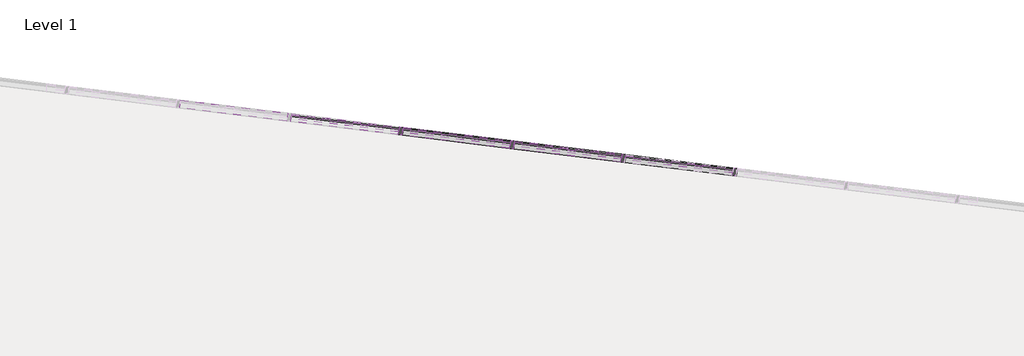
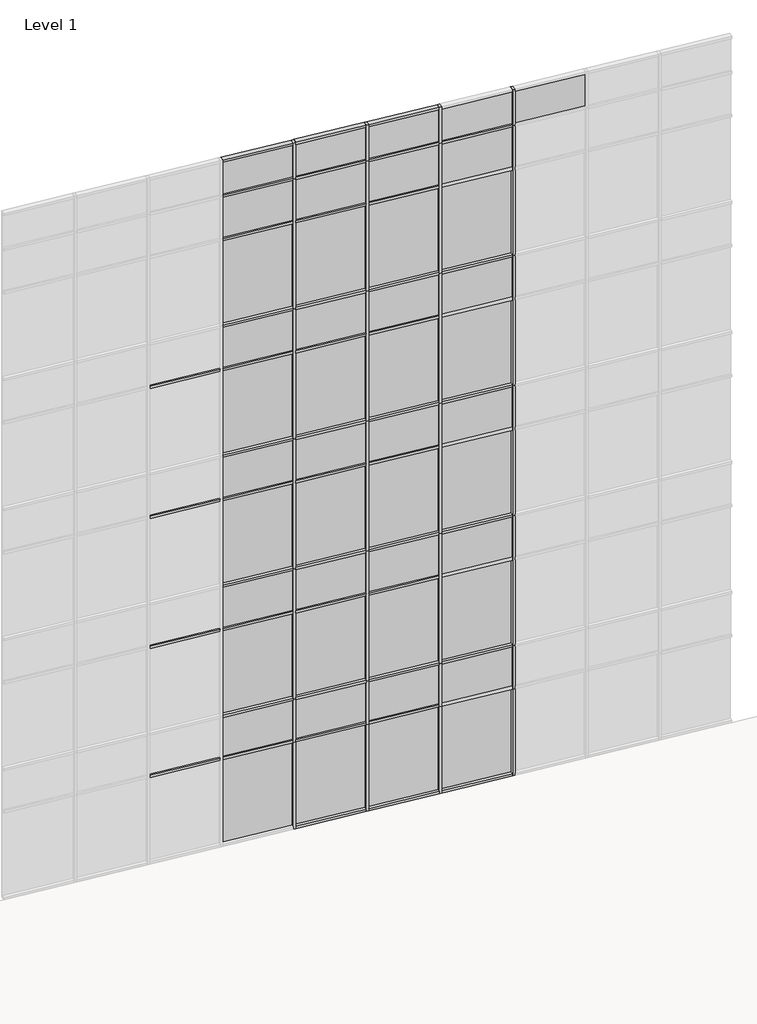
# One storey, part 17 of 23: 73 members, 45 plates.
"""IFC4 building model written with IfcOpenShell, lengths in millimetres."""

from ifc_helpers import new_model, si_unit, origin, place, context, project, spatial, transform, mapped, element, save
from components import member_2b49869a, member_f92b8aa2, member_810865a4, member_f0fea5a5, member_6d5c3e5e, member_9764dd38, system_panel_glazed_14c75400, system_panel_solid_5dfe6f83, system_panel_solid_e25e2004, system_panel_solid_b7551183

model = new_model("IFC4")

# Units and contexts
model_context = context("Model", 3, world=origin())
ifc_project = project(units=[si_unit("LENGTHUNIT", "METRE", prefix="MILLI")], contexts=[model_context])

# Site, building, storey
site = spatial("IfcSite", under=ifc_project)
building = spatial("IfcBuilding", under=site)
storey = spatial("IfcBuildingStorey", under=building, Name="Level 1", Elevation=0.0)

# Members
placement = place(None, origin())
member_shape = member_2b49869a(model_context)
element("IfcMember", 1, ObjectType="Rectangular Mullion : 2.5\" x 5\" rectangular", at=placement, inside=storey, context=model_context, shape_type="MappedRepresentation", body=[
    mapped(member_shape, transform((-12961.1731656, 13462.7931326, 2438.4), x_axis=(0.9925461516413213, -0.12186934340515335, 0.0), y_axis=(-0.12186934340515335, -0.9925461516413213, 0.0), z_axis=(0.0, 0.0, -1.0))),
])
element("IfcMember", 2, ObjectType="Rectangular Mullion : 2.5\" x 5\" rectangular", at=placement, inside=storey, context=model_context, shape_type="MappedRepresentation", body=[
    mapped(member_shape, transform((-14776.3415677, 13685.6677878, 2438.4), x_axis=(0.9925461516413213, -0.12186934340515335, 0.0), y_axis=(-0.12186934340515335, -0.9925461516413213, 0.0), z_axis=(0.0, 0.0, -1.0))),
])
element("IfcMember", 3, ObjectType="Rectangular Mullion : 2.5\" x 5\" rectangular", at=placement, inside=storey, context=model_context, shape_type="MappedRepresentation", body=[
    mapped(member_shape, transform((-16591.5099698, 13908.5424431, 2438.4), x_axis=(0.9925461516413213, -0.12186934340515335, 0.0), y_axis=(-0.12186934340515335, -0.9925461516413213, 0.0), z_axis=(0.0, 0.0, -1.0))),
])
element("IfcMember", 4, ObjectType="Rectangular Mullion : 2.5\" x 5\" rectangular", at=placement, inside=storey, context=model_context, shape_type="MappedRepresentation", body=[
    mapped(member_shape, transform((-18406.678372, 14131.4170983, 2438.4), x_axis=(0.9925461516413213, -0.12186934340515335, 0.0), y_axis=(-0.12186934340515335, -0.9925461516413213, 0.0), z_axis=(0.0, 0.0, -1.0))),
])
member_2_shape = member_f92b8aa2(model_context)
element("IfcMember", 5, ObjectType="Rectangular Mullion : 2.5\" x 5\" rectangular", at=placement, inside=storey, context=model_context, shape_type="MappedRepresentation", body=[
    mapped(member_2_shape, transform((-12961.1731656, 13462.7931326, 18288.0), x_axis=(0.9925461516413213, -0.12186934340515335, 0.0), y_axis=(-0.12186934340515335, -0.9925461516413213, 0.0), z_axis=(0.0, 0.0, -1.0))),
])
element("IfcMember", 6, ObjectType="Rectangular Mullion : 2.5\" x 5\" rectangular", at=placement, inside=storey, context=model_context, shape_type="MappedRepresentation", body=[
    mapped(member_2_shape, transform((-14776.3415677, 13685.6677878, 18288.0), x_axis=(0.9925461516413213, -0.12186934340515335, 0.0), y_axis=(-0.12186934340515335, -0.9925461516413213, 0.0), z_axis=(0.0, 0.0, -1.0))),
])
element("IfcMember", 7, ObjectType="Rectangular Mullion : 2.5\" x 5\" rectangular", at=placement, inside=storey, context=model_context, shape_type="MappedRepresentation", body=[
    mapped(member_2_shape, transform((-16591.5099698, 13908.5424431, 18288.0), x_axis=(0.9925461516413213, -0.12186934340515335, 0.0), y_axis=(-0.12186934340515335, -0.9925461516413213, 0.0), z_axis=(0.0, 0.0, -1.0))),
])
element("IfcMember", 8, ObjectType="Rectangular Mullion : 2.5\" x 5\" rectangular", at=placement, inside=storey, context=model_context, shape_type="MappedRepresentation", body=[
    mapped(member_2_shape, transform((-18406.678372, 14131.4170983, 18288.0), x_axis=(0.9925461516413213, -0.12186934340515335, 0.0), y_axis=(-0.12186934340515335, -0.9925461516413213, 0.0), z_axis=(0.0, 0.0, -1.0))),
])
member_3_shape = member_810865a4(model_context)
element("IfcMember", 9, ObjectType="Rectangular Mullion : 2.5\" x 5\" rectangular", at=placement, inside=storey, context=model_context, shape_type="MappedRepresentation", body=[
    mapped(member_3_shape, transform((-12961.1731656, 13462.7931326, 14630.4), x_axis=(0.9925461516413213, -0.12186934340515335, 0.0), y_axis=(-0.12186934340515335, -0.9925461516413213, 0.0), z_axis=(0.0, 0.0, -1.0))),
])
element("IfcMember", 10, ObjectType="Rectangular Mullion : 2.5\" x 5\" rectangular", at=placement, inside=storey, context=model_context, shape_type="MappedRepresentation", body=[
    mapped(member_3_shape, transform((-12961.1731656, 13462.7931326, 10972.8), x_axis=(0.9925461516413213, -0.12186934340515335, 0.0), y_axis=(-0.12186934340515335, -0.9925461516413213, 0.0), z_axis=(0.0, 0.0, -1.0))),
])
element("IfcMember", 11, ObjectType="Rectangular Mullion : 2.5\" x 5\" rectangular", at=placement, inside=storey, context=model_context, shape_type="MappedRepresentation", body=[
    mapped(member_3_shape, transform((-12961.1731656, 13462.7931326, 7315.2), x_axis=(0.9925461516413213, -0.12186934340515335, 0.0), y_axis=(-0.12186934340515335, -0.9925461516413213, 0.0), z_axis=(0.0, 0.0, -1.0))),
])
element("IfcMember", 12, ObjectType="Rectangular Mullion : 2.5\" x 5\" rectangular", at=placement, inside=storey, context=model_context, shape_type="MappedRepresentation", body=[
    mapped(member_3_shape, transform((-12961.1731656, 13462.7931326, 3657.6), x_axis=(0.9925461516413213, -0.12186934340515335, 0.0), y_axis=(-0.12186934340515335, -0.9925461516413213, 0.0), z_axis=(0.0, 0.0, -1.0))),
])
element("IfcMember", 13, ObjectType="Rectangular Mullion : 2.5\" x 5\" rectangular", at=placement, inside=storey, context=model_context, shape_type="MappedRepresentation", body=[
    mapped(member_3_shape, transform((-14776.3415677, 13685.6677878, 14630.4), x_axis=(0.9925461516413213, -0.12186934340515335, 0.0), y_axis=(-0.12186934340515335, -0.9925461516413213, 0.0), z_axis=(0.0, 0.0, -1.0))),
])
element("IfcMember", 14, ObjectType="Rectangular Mullion : 2.5\" x 5\" rectangular", at=placement, inside=storey, context=model_context, shape_type="MappedRepresentation", body=[
    mapped(member_3_shape, transform((-14776.3415677, 13685.6677878, 10972.8), x_axis=(0.9925461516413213, -0.12186934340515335, 0.0), y_axis=(-0.12186934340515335, -0.9925461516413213, 0.0), z_axis=(0.0, 0.0, -1.0))),
])
element("IfcMember", 15, ObjectType="Rectangular Mullion : 2.5\" x 5\" rectangular", at=placement, inside=storey, context=model_context, shape_type="MappedRepresentation", body=[
    mapped(member_3_shape, transform((-14776.3415677, 13685.6677878, 7315.2), x_axis=(0.9925461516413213, -0.12186934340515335, 0.0), y_axis=(-0.12186934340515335, -0.9925461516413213, 0.0), z_axis=(0.0, 0.0, -1.0))),
])
element("IfcMember", 16, ObjectType="Rectangular Mullion : 2.5\" x 5\" rectangular", at=placement, inside=storey, context=model_context, shape_type="MappedRepresentation", body=[
    mapped(member_3_shape, transform((-14776.3415677, 13685.6677878, 3657.6), x_axis=(0.9925461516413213, -0.12186934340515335, 0.0), y_axis=(-0.12186934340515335, -0.9925461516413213, 0.0), z_axis=(0.0, 0.0, -1.0))),
])
element("IfcMember", 17, ObjectType="Rectangular Mullion : 2.5\" x 5\" rectangular", at=placement, inside=storey, context=model_context, shape_type="MappedRepresentation", body=[
    mapped(member_3_shape, transform((-16591.5099698, 13908.5424431, 14630.4), x_axis=(0.9925461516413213, -0.12186934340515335, 0.0), y_axis=(-0.12186934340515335, -0.9925461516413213, 0.0), z_axis=(0.0, 0.0, -1.0))),
])
element("IfcMember", 18, ObjectType="Rectangular Mullion : 2.5\" x 5\" rectangular", at=placement, inside=storey, context=model_context, shape_type="MappedRepresentation", body=[
    mapped(member_3_shape, transform((-16591.5099698, 13908.5424431, 10972.8), x_axis=(0.9925461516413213, -0.12186934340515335, 0.0), y_axis=(-0.12186934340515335, -0.9925461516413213, 0.0), z_axis=(0.0, 0.0, -1.0))),
])
element("IfcMember", 19, ObjectType="Rectangular Mullion : 2.5\" x 5\" rectangular", at=placement, inside=storey, context=model_context, shape_type="MappedRepresentation", body=[
    mapped(member_3_shape, transform((-16591.5099698, 13908.5424431, 7315.2), x_axis=(0.9925461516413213, -0.12186934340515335, 0.0), y_axis=(-0.12186934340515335, -0.9925461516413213, 0.0), z_axis=(0.0, 0.0, -1.0))),
])
element("IfcMember", 20, ObjectType="Rectangular Mullion : 2.5\" x 5\" rectangular", at=placement, inside=storey, context=model_context, shape_type="MappedRepresentation", body=[
    mapped(member_3_shape, transform((-16591.5099698, 13908.5424431, 3657.6), x_axis=(0.9925461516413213, -0.12186934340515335, 0.0), y_axis=(-0.12186934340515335, -0.9925461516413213, 0.0), z_axis=(0.0, 0.0, -1.0))),
])
element("IfcMember", 21, ObjectType="Rectangular Mullion : 2.5\" x 5\" rectangular", at=placement, inside=storey, context=model_context, shape_type="MappedRepresentation", body=[
    mapped(member_3_shape, transform((-18406.678372, 14131.4170983, 14630.4), x_axis=(0.9925461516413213, -0.12186934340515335, 0.0), y_axis=(-0.12186934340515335, -0.9925461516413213, 0.0), z_axis=(0.0, 0.0, -1.0))),
])
element("IfcMember", 22, ObjectType="Rectangular Mullion : 2.5\" x 5\" rectangular", at=placement, inside=storey, context=model_context, shape_type="MappedRepresentation", body=[
    mapped(member_3_shape, transform((-18406.678372, 14131.4170983, 10972.8), x_axis=(0.9925461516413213, -0.12186934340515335, 0.0), y_axis=(-0.12186934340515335, -0.9925461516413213, 0.0), z_axis=(0.0, 0.0, -1.0))),
])
element("IfcMember", 23, ObjectType="Rectangular Mullion : 2.5\" x 5\" rectangular", at=placement, inside=storey, context=model_context, shape_type="MappedRepresentation", body=[
    mapped(member_3_shape, transform((-18406.678372, 14131.4170983, 7315.2), x_axis=(0.9925461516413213, -0.12186934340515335, 0.0), y_axis=(-0.12186934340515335, -0.9925461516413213, 0.0), z_axis=(0.0, 0.0, -1.0))),
])
element("IfcMember", 24, ObjectType="Rectangular Mullion : 2.5\" x 5\" rectangular", at=placement, inside=storey, context=model_context, shape_type="MappedRepresentation", body=[
    mapped(member_3_shape, transform((-18406.678372, 14131.4170983, 3657.6), x_axis=(0.9925461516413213, -0.12186934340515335, 0.0), y_axis=(-0.12186934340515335, -0.9925461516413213, 0.0), z_axis=(0.0, 0.0, -1.0))),
])
member_4_shape = member_f0fea5a5(model_context)
element("IfcMember", 25, ObjectType="Rectangular Mullion : 2.5\" x 5\" rectangular", at=placement, inside=storey, context=model_context, shape_type="MappedRepresentation", body=[
    mapped(member_4_shape, transform((-18406.678372, 14131.4170983, 0.0), x_axis=(0.9925461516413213, -0.12186934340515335, 0.0), y_axis=(-0.12186934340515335, -0.9925461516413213, 0.0), z_axis=(0.0, 0.0, -1.0))),
])
element("IfcMember", 26, ObjectType="Rectangular Mullion : 2.5\" x 5\" rectangular", at=placement, inside=storey, context=model_context, shape_type="MappedRepresentation", body=[
    mapped(member_4_shape, transform((-16591.5099698, 13908.5424431, 0.0), x_axis=(0.9925461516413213, -0.12186934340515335, 0.0), y_axis=(-0.12186934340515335, -0.9925461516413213, 0.0), z_axis=(0.0, 0.0, -1.0))),
])
element("IfcMember", 27, ObjectType="Rectangular Mullion : 2.5\" x 5\" rectangular", at=placement, inside=storey, context=model_context, shape_type="MappedRepresentation", body=[
    mapped(member_4_shape, transform((-14776.3415677, 13685.6677878, 0.0), x_axis=(0.9925461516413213, -0.12186934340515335, 0.0), y_axis=(-0.12186934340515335, -0.9925461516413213, 0.0), z_axis=(0.0, 0.0, -1.0))),
])
element("IfcMember", 28, ObjectType="Rectangular Mullion : 2.5\" x 5\" rectangular", at=placement, inside=storey, context=model_context, shape_type="MappedRepresentation", body=[
    mapped(member_4_shape, transform((-12961.1731656, 13462.7931326, 0.0), x_axis=(0.9925461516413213, -0.12186934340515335, 0.0), y_axis=(-0.12186934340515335, -0.9925461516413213, 0.0), z_axis=(0.0, 0.0, -1.0))),
])
member_5_shape = member_6d5c3e5e(model_context)
element("IfcMember", 29, ObjectType="Rectangular Mullion : 2.5\" x 5\" rectangular", at=placement, inside=storey, context=model_context, shape_type="MappedRepresentation", body=[
    mapped(member_5_shape, transform((-14807.854908, 13689.5371395, 19304.0), x_axis=(0.0, 0.0, 1.0), y_axis=(-0.12186934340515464, -0.9925461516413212, 0.0), z_axis=(0.9925461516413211, -0.12186934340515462, 0.0))),
])
element("IfcMember", 30, ObjectType="Rectangular Mullion : 2.5\" x 5\" rectangular", at=placement, inside=storey, context=model_context, shape_type="MappedRepresentation", body=[
    mapped(member_5_shape, transform((-16623.0233102, 13912.4117947, 19304.0), x_axis=(0.0, 0.0, 1.0), y_axis=(-0.12186934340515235, -0.9925461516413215, 0.0), z_axis=(0.9925461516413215, -0.12186934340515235, 0.0))),
])
element("IfcMember", 31, ObjectType="Rectangular Mullion : 2.5\" x 5\" rectangular", at=placement, inside=storey, context=model_context, shape_type="MappedRepresentation", body=[
    mapped(member_5_shape, transform((-18438.1917123, 14135.2864499, 19304.0), x_axis=(0.0, 0.0, 1.0), y_axis=(-0.12186934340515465, -0.9925461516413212, 0.0), z_axis=(0.9925461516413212, -0.12186934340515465, 0.0))),
])
member_6_shape = member_9764dd38(model_context)
element("IfcMember", 32, ObjectType="Rectangular Mullion : 2.5\" x 5\" rectangular", at=placement, inside=storey, context=model_context, shape_type="MappedRepresentation", body=[
    mapped(member_6_shape, transform((-14807.854908, 13689.5371395, 17068.8), x_axis=(0.0, 0.0, 1.0), y_axis=(-0.12186934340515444, -0.9925461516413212, 0.0), z_axis=(0.9925461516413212, -0.12186934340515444, 0.0))),
])
element("IfcMember", 33, ObjectType="Rectangular Mullion : 2.5\" x 5\" rectangular", at=placement, inside=storey, context=model_context, shape_type="MappedRepresentation", body=[
    mapped(member_6_shape, transform((-16623.0233102, 13912.4117947, 17068.8), x_axis=(0.0, 0.0, 1.0), y_axis=(-0.12186934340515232, -0.9925461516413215, 0.0), z_axis=(0.9925461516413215, -0.12186934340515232, 0.0))),
])
element("IfcMember", 34, ObjectType="Rectangular Mullion : 2.5\" x 5\" rectangular", at=placement, inside=storey, context=model_context, shape_type="MappedRepresentation", body=[
    mapped(member_6_shape, transform((-18438.1917123, 14135.2864499, 17068.8), x_axis=(0.0, 0.0, 1.0), y_axis=(-0.12186934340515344, -0.9925461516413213, 0.0), z_axis=(0.9925461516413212, -0.12186934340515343, 0.0))),
])
element("IfcMember", 35, ObjectType="Rectangular Mullion : 2.5\" x 5\" rectangular", at=placement, inside=storey, context=model_context, shape_type="MappedRepresentation", body=[
    mapped(member_6_shape, transform((-14807.854908, 13689.5371395, 13411.2), x_axis=(0.0, 0.0, 1.0), y_axis=(-0.12186934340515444, -0.9925461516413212, 0.0), z_axis=(0.9925461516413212, -0.12186934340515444, 0.0))),
])
element("IfcMember", 36, ObjectType="Rectangular Mullion : 2.5\" x 5\" rectangular", at=placement, inside=storey, context=model_context, shape_type="MappedRepresentation", body=[
    mapped(member_6_shape, transform((-16623.0233102, 13912.4117947, 13411.2), x_axis=(0.0, 0.0, 1.0), y_axis=(-0.12186934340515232, -0.9925461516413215, 0.0), z_axis=(0.9925461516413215, -0.12186934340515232, 0.0))),
])
element("IfcMember", 37, ObjectType="Rectangular Mullion : 2.5\" x 5\" rectangular", at=placement, inside=storey, context=model_context, shape_type="MappedRepresentation", body=[
    mapped(member_6_shape, transform((-18438.1917123, 14135.2864499, 13411.2), x_axis=(0.0, 0.0, 1.0), y_axis=(-0.12186934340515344, -0.9925461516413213, 0.0), z_axis=(0.9925461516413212, -0.12186934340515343, 0.0))),
])
element("IfcMember", 38, ObjectType="Rectangular Mullion : 2.5\" x 5\" rectangular", at=placement, inside=storey, context=model_context, shape_type="MappedRepresentation", body=[
    mapped(member_6_shape, transform((-20253.3601144, 14358.1611052, 13411.2), x_axis=(0.0, 0.0, 1.0), y_axis=(-0.12186934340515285, -0.9925461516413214, 0.0), z_axis=(0.9925461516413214, -0.12186934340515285, 0.0))),
])
element("IfcMember", 39, ObjectType="Rectangular Mullion : 2.5\" x 5\" rectangular", at=placement, inside=storey, context=model_context, shape_type="MappedRepresentation", body=[
    mapped(member_6_shape, transform((-14807.854908, 13689.5371395, 9753.6), x_axis=(0.0, 0.0, 1.0), y_axis=(-0.12186934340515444, -0.9925461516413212, 0.0), z_axis=(0.9925461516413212, -0.12186934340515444, 0.0))),
])
element("IfcMember", 40, ObjectType="Rectangular Mullion : 2.5\" x 5\" rectangular", at=placement, inside=storey, context=model_context, shape_type="MappedRepresentation", body=[
    mapped(member_6_shape, transform((-16623.0233102, 13912.4117947, 9753.6), x_axis=(0.0, 0.0, 1.0), y_axis=(-0.12186934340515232, -0.9925461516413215, 0.0), z_axis=(0.9925461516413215, -0.12186934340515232, 0.0))),
])
element("IfcMember", 41, ObjectType="Rectangular Mullion : 2.5\" x 5\" rectangular", at=placement, inside=storey, context=model_context, shape_type="MappedRepresentation", body=[
    mapped(member_6_shape, transform((-18438.1917123, 14135.2864499, 9753.6), x_axis=(0.0, 0.0, 1.0), y_axis=(-0.12186934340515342, -0.9925461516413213, 0.0), z_axis=(0.9925461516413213, -0.12186934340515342, 0.0))),
])
element("IfcMember", 42, ObjectType="Rectangular Mullion : 2.5\" x 5\" rectangular", at=placement, inside=storey, context=model_context, shape_type="MappedRepresentation", body=[
    mapped(member_6_shape, transform((-20253.3601144, 14358.1611052, 9753.6), x_axis=(0.0, 0.0, 1.0), y_axis=(-0.12186934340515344, -0.9925461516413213, 0.0), z_axis=(0.9925461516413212, -0.12186934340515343, 0.0))),
])
element("IfcMember", 43, ObjectType="Rectangular Mullion : 2.5\" x 5\" rectangular", at=placement, inside=storey, context=model_context, shape_type="MappedRepresentation", body=[
    mapped(member_6_shape, transform((-14807.854908, 13689.5371395, 6096.0), x_axis=(0.0, 0.0, 1.0), y_axis=(-0.12186934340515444, -0.9925461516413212, 0.0), z_axis=(0.9925461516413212, -0.12186934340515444, 0.0))),
])
element("IfcMember", 44, ObjectType="Rectangular Mullion : 2.5\" x 5\" rectangular", at=placement, inside=storey, context=model_context, shape_type="MappedRepresentation", body=[
    mapped(member_6_shape, transform((-16623.0233102, 13912.4117947, 6096.0), x_axis=(0.0, 0.0, 1.0), y_axis=(-0.12186934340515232, -0.9925461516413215, 0.0), z_axis=(0.9925461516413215, -0.12186934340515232, 0.0))),
])
element("IfcMember", 45, ObjectType="Rectangular Mullion : 2.5\" x 5\" rectangular", at=placement, inside=storey, context=model_context, shape_type="MappedRepresentation", body=[
    mapped(member_6_shape, transform((-18438.1917123, 14135.2864499, 6096.0), x_axis=(0.0, 0.0, 1.0), y_axis=(-0.12186934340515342, -0.9925461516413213, 0.0), z_axis=(0.9925461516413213, -0.12186934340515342, 0.0))),
])
element("IfcMember", 46, ObjectType="Rectangular Mullion : 2.5\" x 5\" rectangular", at=placement, inside=storey, context=model_context, shape_type="MappedRepresentation", body=[
    mapped(member_6_shape, transform((-20253.3601144, 14358.1611052, 6096.0), x_axis=(0.0, 0.0, 1.0), y_axis=(-0.12186934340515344, -0.9925461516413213, 0.0), z_axis=(0.9925461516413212, -0.12186934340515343, 0.0))),
])
element("IfcMember", 47, ObjectType="Rectangular Mullion : 2.5\" x 5\" rectangular", at=placement, inside=storey, context=model_context, shape_type="MappedRepresentation", body=[
    mapped(member_6_shape, transform((-14807.854908, 13689.5371395, 2470.15), x_axis=(0.0, 0.0, 1.0), y_axis=(-0.12186934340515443, -0.9925461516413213, 0.0), z_axis=(0.9925461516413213, -0.12186934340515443, 0.0))),
])
element("IfcMember", 48, ObjectType="Rectangular Mullion : 2.5\" x 5\" rectangular", at=placement, inside=storey, context=model_context, shape_type="MappedRepresentation", body=[
    mapped(member_6_shape, transform((-16623.0233102, 13912.4117947, 2470.15), x_axis=(0.0, 0.0, 1.0), y_axis=(-0.12186934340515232, -0.9925461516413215, 0.0), z_axis=(0.9925461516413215, -0.12186934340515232, 0.0))),
])
element("IfcMember", 49, ObjectType="Rectangular Mullion : 2.5\" x 5\" rectangular", at=placement, inside=storey, context=model_context, shape_type="MappedRepresentation", body=[
    mapped(member_6_shape, transform((-18438.1917123, 14135.2864499, 2470.15), x_axis=(0.0, 0.0, 1.0), y_axis=(-0.1218693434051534, -0.9925461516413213, 0.0), z_axis=(0.9925461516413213, -0.1218693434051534, 0.0))),
])
element("IfcMember", 50, ObjectType="Rectangular Mullion : 2.5\" x 5\" rectangular", at=placement, inside=storey, context=model_context, shape_type="MappedRepresentation", body=[
    mapped(member_6_shape, transform((-20253.3601144, 14358.1611052, 2470.15), x_axis=(0.0, 0.0, 1.0), y_axis=(-0.12186934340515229, -0.9925461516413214, 0.0), z_axis=(0.9925461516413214, -0.12186934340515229, 0.0))),
])
element("IfcMember", 51, ObjectType="Rectangular Mullion : 2.5\" x 5\" rectangular", at=placement, inside=storey, context=model_context, shape_type="MappedRepresentation", body=[
    mapped(member_5_shape, transform((-14744.8282274, 13681.7984362, 0.0), x_axis=(0.0, 0.0, -1.0), y_axis=(-0.12186934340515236, -0.9925461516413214, 0.0), z_axis=(-0.9925461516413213, 0.12186934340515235, 0.0))),
])
element("IfcMember", 52, ObjectType="Rectangular Mullion : 2.5\" x 5\" rectangular", at=placement, inside=storey, context=model_context, shape_type="MappedRepresentation", body=[
    mapped(member_5_shape, transform((-16559.9966295, 13904.6730914, 0.0), x_axis=(0.0, 0.0, -1.0), y_axis=(-0.12186934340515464, -0.9925461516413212, 0.0), z_axis=(-0.9925461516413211, 0.12186934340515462, 0.0))),
])
element("IfcMember", 53, ObjectType="Rectangular Mullion : 2.5\" x 5\" rectangular", at=placement, inside=storey, context=model_context, shape_type="MappedRepresentation", body=[
    mapped(member_5_shape, transform((-18375.1650316, 14127.5477466, 0.0), x_axis=(0.0, 0.0, -1.0), y_axis=(-0.12186934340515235, -0.9925461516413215, 0.0), z_axis=(-0.9925461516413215, 0.12186934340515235, 0.0))),
])
element("IfcMember", 54, ObjectType="Rectangular Mullion : 2.5\" x 5\" rectangular", at=placement, inside=storey, context=model_context, shape_type="MappedRepresentation", body=[
    mapped(member_6_shape, transform((-12992.6865059, 13466.6624843, 3657.6), x_axis=(0.0, 0.0, 1.0), y_axis=(-0.12186934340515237, -0.9925461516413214, 0.0), z_axis=(0.9925461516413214, -0.12186934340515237, 0.0))),
])
element("IfcMember", 55, ObjectType="Rectangular Mullion : 2.5\" x 5\" rectangular", at=placement, inside=storey, context=model_context, shape_type="MappedRepresentation", body=[
    mapped(member_6_shape, transform((-14807.854908, 13689.5371395, 3657.6), x_axis=(0.0, 0.0, 1.0), y_axis=(-0.12186934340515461, -0.9925461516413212, 0.0), z_axis=(0.9925461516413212, -0.12186934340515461, 0.0))),
])
element("IfcMember", 56, ObjectType="Rectangular Mullion : 2.5\" x 5\" rectangular", at=placement, inside=storey, context=model_context, shape_type="MappedRepresentation", body=[
    mapped(member_6_shape, transform((-16623.0233102, 13912.4117947, 3657.6), x_axis=(0.0, 0.0, 1.0), y_axis=(-0.12186934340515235, -0.9925461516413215, 0.0), z_axis=(0.9925461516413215, -0.12186934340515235, 0.0))),
])
element("IfcMember", 57, ObjectType="Rectangular Mullion : 2.5\" x 5\" rectangular", at=placement, inside=storey, context=model_context, shape_type="MappedRepresentation", body=[
    mapped(member_6_shape, transform((-18438.1917123, 14135.2864499, 3657.6), x_axis=(0.0, 0.0, 1.0), y_axis=(-0.12186934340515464, -0.9925461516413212, 0.0), z_axis=(0.9925461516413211, -0.12186934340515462, 0.0))),
])
element("IfcMember", 58, ObjectType="Rectangular Mullion : 2.5\" x 5\" rectangular", at=placement, inside=storey, context=model_context, shape_type="MappedRepresentation", body=[
    mapped(member_6_shape, transform((-12992.6865059, 13466.6624843, 10972.8), x_axis=(0.0, 0.0, 1.0), y_axis=(-0.12186934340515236, -0.9925461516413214, 0.0), z_axis=(0.9925461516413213, -0.12186934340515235, 0.0))),
])
element("IfcMember", 59, ObjectType="Rectangular Mullion : 2.5\" x 5\" rectangular", at=placement, inside=storey, context=model_context, shape_type="MappedRepresentation", body=[
    mapped(member_6_shape, transform((-14807.854908, 13689.5371395, 10972.8), x_axis=(0.0, 0.0, 1.0), y_axis=(-0.12186934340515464, -0.9925461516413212, 0.0), z_axis=(0.9925461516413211, -0.12186934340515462, 0.0))),
])
element("IfcMember", 60, ObjectType="Rectangular Mullion : 2.5\" x 5\" rectangular", at=placement, inside=storey, context=model_context, shape_type="MappedRepresentation", body=[
    mapped(member_6_shape, transform((-16623.0233102, 13912.4117947, 10972.8), x_axis=(0.0, 0.0, 1.0), y_axis=(-0.12186934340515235, -0.9925461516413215, 0.0), z_axis=(0.9925461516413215, -0.12186934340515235, 0.0))),
])
element("IfcMember", 61, ObjectType="Rectangular Mullion : 2.5\" x 5\" rectangular", at=placement, inside=storey, context=model_context, shape_type="MappedRepresentation", body=[
    mapped(member_6_shape, transform((-18438.1917123, 14135.2864499, 10972.8), x_axis=(0.0, 0.0, 1.0), y_axis=(-0.12186934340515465, -0.9925461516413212, 0.0), z_axis=(0.9925461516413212, -0.12186934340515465, 0.0))),
])
element("IfcMember", 62, ObjectType="Rectangular Mullion : 2.5\" x 5\" rectangular", at=placement, inside=storey, context=model_context, shape_type="MappedRepresentation", body=[
    mapped(member_6_shape, transform((-12992.6865059, 13466.6624843, 14630.4), x_axis=(0.0, 0.0, 1.0), y_axis=(-0.12186934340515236, -0.9925461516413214, 0.0), z_axis=(0.9925461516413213, -0.12186934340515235, 0.0))),
])
element("IfcMember", 63, ObjectType="Rectangular Mullion : 2.5\" x 5\" rectangular", at=placement, inside=storey, context=model_context, shape_type="MappedRepresentation", body=[
    mapped(member_6_shape, transform((-14807.854908, 13689.5371395, 14630.4), x_axis=(0.0, 0.0, 1.0), y_axis=(-0.12186934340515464, -0.9925461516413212, 0.0), z_axis=(0.9925461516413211, -0.12186934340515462, 0.0))),
])
element("IfcMember", 64, ObjectType="Rectangular Mullion : 2.5\" x 5\" rectangular", at=placement, inside=storey, context=model_context, shape_type="MappedRepresentation", body=[
    mapped(member_6_shape, transform((-16623.0233102, 13912.4117947, 14630.4), x_axis=(0.0, 0.0, 1.0), y_axis=(-0.12186934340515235, -0.9925461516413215, 0.0), z_axis=(0.9925461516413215, -0.12186934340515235, 0.0))),
])
element("IfcMember", 65, ObjectType="Rectangular Mullion : 2.5\" x 5\" rectangular", at=placement, inside=storey, context=model_context, shape_type="MappedRepresentation", body=[
    mapped(member_6_shape, transform((-18438.1917123, 14135.2864499, 14630.4), x_axis=(0.0, 0.0, 1.0), y_axis=(-0.12186934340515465, -0.9925461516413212, 0.0), z_axis=(0.9925461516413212, -0.12186934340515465, 0.0))),
])
element("IfcMember", 66, ObjectType="Rectangular Mullion : 2.5\" x 5\" rectangular", at=placement, inside=storey, context=model_context, shape_type="MappedRepresentation", body=[
    mapped(member_6_shape, transform((-12992.6865059, 13466.6624843, 7315.2), x_axis=(0.0, 0.0, 1.0), y_axis=(-0.12186934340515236, -0.9925461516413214, 0.0), z_axis=(0.9925461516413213, -0.12186934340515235, 0.0))),
])
element("IfcMember", 67, ObjectType="Rectangular Mullion : 2.5\" x 5\" rectangular", at=placement, inside=storey, context=model_context, shape_type="MappedRepresentation", body=[
    mapped(member_6_shape, transform((-14807.854908, 13689.5371395, 7315.2), x_axis=(0.0, 0.0, 1.0), y_axis=(-0.12186934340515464, -0.9925461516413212, 0.0), z_axis=(0.9925461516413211, -0.12186934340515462, 0.0))),
])
element("IfcMember", 68, ObjectType="Rectangular Mullion : 2.5\" x 5\" rectangular", at=placement, inside=storey, context=model_context, shape_type="MappedRepresentation", body=[
    mapped(member_6_shape, transform((-16623.0233102, 13912.4117947, 7315.2), x_axis=(0.0, 0.0, 1.0), y_axis=(-0.12186934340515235, -0.9925461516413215, 0.0), z_axis=(0.9925461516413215, -0.12186934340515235, 0.0))),
])
element("IfcMember", 69, ObjectType="Rectangular Mullion : 2.5\" x 5\" rectangular", at=placement, inside=storey, context=model_context, shape_type="MappedRepresentation", body=[
    mapped(member_6_shape, transform((-18438.1917123, 14135.2864499, 7315.2), x_axis=(0.0, 0.0, 1.0), y_axis=(-0.12186934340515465, -0.9925461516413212, 0.0), z_axis=(0.9925461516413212, -0.12186934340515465, 0.0))),
])
element("IfcMember", 70, ObjectType="Rectangular Mullion : 2.5\" x 5\" rectangular", at=placement, inside=storey, context=model_context, shape_type="MappedRepresentation", body=[
    mapped(member_6_shape, transform((-12992.6865059, 13466.6624843, 18288.0), x_axis=(0.0, 0.0, 1.0), y_axis=(-0.12186934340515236, -0.9925461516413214, 0.0), z_axis=(0.9925461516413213, -0.12186934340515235, 0.0))),
])
element("IfcMember", 71, ObjectType="Rectangular Mullion : 2.5\" x 5\" rectangular", at=placement, inside=storey, context=model_context, shape_type="MappedRepresentation", body=[
    mapped(member_6_shape, transform((-14807.854908, 13689.5371395, 18288.0), x_axis=(0.0, 0.0, 1.0), y_axis=(-0.12186934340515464, -0.9925461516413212, 0.0), z_axis=(0.9925461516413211, -0.12186934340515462, 0.0))),
])
element("IfcMember", 72, ObjectType="Rectangular Mullion : 2.5\" x 5\" rectangular", at=placement, inside=storey, context=model_context, shape_type="MappedRepresentation", body=[
    mapped(member_6_shape, transform((-16623.0233102, 13912.4117947, 18288.0), x_axis=(0.0, 0.0, 1.0), y_axis=(-0.12186934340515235, -0.9925461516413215, 0.0), z_axis=(0.9925461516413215, -0.12186934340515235, 0.0))),
])
element("IfcMember", 73, ObjectType="Rectangular Mullion : 2.5\" x 5\" rectangular", at=placement, inside=storey, context=model_context, shape_type="MappedRepresentation", body=[
    mapped(member_6_shape, transform((-18438.1917123, 14135.2864499, 18288.0), x_axis=(0.0, 0.0, 1.0), y_axis=(-0.12186934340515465, -0.9925461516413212, 0.0), z_axis=(0.9925461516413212, -0.12186934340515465, 0.0))),
])

# Plates
system_panel_glazed_shape = system_panel_glazed_14c75400(model_context)
element("IfcPlate", 74, ObjectType="System Panel : Glazed", at=placement, inside=storey, context=model_context, shape_type="MappedRepresentation", body=[
    mapped(system_panel_glazed_shape, transform((-13868.7573667, 13574.2304602, 14662.15), x_axis=(0.9925461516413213, -0.12186934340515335, 0.0), y_axis=(0.12186934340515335, 0.9925461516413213, 0.0), z_axis=(0.0, 0.0, 1.0))),
])
element("IfcPlate", 75, ObjectType="System Panel : Glazed", at=placement, inside=storey, context=model_context, shape_type="MappedRepresentation", body=[
    mapped(system_panel_glazed_shape, transform((-15683.9257688, 13797.1051154, 14662.15), x_axis=(0.9925461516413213, -0.12186934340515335, 0.0), y_axis=(0.12186934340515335, 0.9925461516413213, 0.0), z_axis=(0.0, 0.0, 1.0))),
])
element("IfcPlate", 76, ObjectType="System Panel : Glazed", at=placement, inside=storey, context=model_context, shape_type="MappedRepresentation", body=[
    mapped(system_panel_glazed_shape, transform((-17499.0941709, 14019.9797707, 14662.15), x_axis=(0.9925461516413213, -0.12186934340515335, 0.0), y_axis=(0.12186934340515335, 0.9925461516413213, 0.0), z_axis=(0.0, 0.0, 1.0))),
])
element("IfcPlate", 77, ObjectType="System Panel : Glazed", at=placement, inside=storey, context=model_context, shape_type="MappedRepresentation", body=[
    mapped(system_panel_glazed_shape, transform((-19314.262573, 14242.8544259, 14662.15), x_axis=(0.9925461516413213, -0.12186934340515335, 0.0), y_axis=(0.12186934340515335, 0.9925461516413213, 0.0), z_axis=(0.0, 0.0, 1.0))),
])
element("IfcPlate", 78, ObjectType="System Panel : Glazed", at=placement, inside=storey, context=model_context, shape_type="MappedRepresentation", body=[
    mapped(system_panel_glazed_shape, transform((-13868.7573667, 13574.2304602, 11004.55), x_axis=(0.9925461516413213, -0.12186934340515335, 0.0), y_axis=(0.12186934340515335, 0.9925461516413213, 0.0), z_axis=(0.0, 0.0, 1.0))),
])
element("IfcPlate", 79, ObjectType="System Panel : Glazed", at=placement, inside=storey, context=model_context, shape_type="MappedRepresentation", body=[
    mapped(system_panel_glazed_shape, transform((-15683.9257688, 13797.1051154, 11004.55), x_axis=(0.9925461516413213, -0.12186934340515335, 0.0), y_axis=(0.12186934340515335, 0.9925461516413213, 0.0), z_axis=(0.0, 0.0, 1.0))),
])
element("IfcPlate", 80, ObjectType="System Panel : Glazed", at=placement, inside=storey, context=model_context, shape_type="MappedRepresentation", body=[
    mapped(system_panel_glazed_shape, transform((-17499.0941709, 14019.9797707, 11004.55), x_axis=(0.9925461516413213, -0.12186934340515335, 0.0), y_axis=(0.12186934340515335, 0.9925461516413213, 0.0), z_axis=(0.0, 0.0, 1.0))),
])
element("IfcPlate", 81, ObjectType="System Panel : Glazed", at=placement, inside=storey, context=model_context, shape_type="MappedRepresentation", body=[
    mapped(system_panel_glazed_shape, transform((-19314.262573, 14242.8544259, 11004.55), x_axis=(0.9925461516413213, -0.12186934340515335, 0.0), y_axis=(0.12186934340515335, 0.9925461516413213, 0.0), z_axis=(0.0, 0.0, 1.0))),
])
element("IfcPlate", 82, ObjectType="System Panel : Glazed", at=placement, inside=storey, context=model_context, shape_type="MappedRepresentation", body=[
    mapped(system_panel_glazed_shape, transform((-13868.7573667, 13574.2304602, 7346.95), x_axis=(0.9925461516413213, -0.12186934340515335, 0.0), y_axis=(0.12186934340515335, 0.9925461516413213, 0.0), z_axis=(0.0, 0.0, 1.0))),
])
element("IfcPlate", 83, ObjectType="System Panel : Glazed", at=placement, inside=storey, context=model_context, shape_type="MappedRepresentation", body=[
    mapped(system_panel_glazed_shape, transform((-15683.9257688, 13797.1051154, 7346.95), x_axis=(0.9925461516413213, -0.12186934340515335, 0.0), y_axis=(0.12186934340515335, 0.9925461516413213, 0.0), z_axis=(0.0, 0.0, 1.0))),
])
element("IfcPlate", 84, ObjectType="System Panel : Glazed", at=placement, inside=storey, context=model_context, shape_type="MappedRepresentation", body=[
    mapped(system_panel_glazed_shape, transform((-17499.0941709, 14019.9797707, 7346.95), x_axis=(0.9925461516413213, -0.12186934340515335, 0.0), y_axis=(0.12186934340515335, 0.9925461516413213, 0.0), z_axis=(0.0, 0.0, 1.0))),
])
element("IfcPlate", 85, ObjectType="System Panel : Glazed", at=placement, inside=storey, context=model_context, shape_type="MappedRepresentation", body=[
    mapped(system_panel_glazed_shape, transform((-19314.262573, 14242.8544259, 7346.95), x_axis=(0.9925461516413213, -0.12186934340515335, 0.0), y_axis=(0.12186934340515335, 0.9925461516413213, 0.0), z_axis=(0.0, 0.0, 1.0))),
])
element("IfcPlate", 86, ObjectType="System Panel : Glazed", at=placement, inside=storey, context=model_context, shape_type="MappedRepresentation", body=[
    mapped(system_panel_glazed_shape, transform((-13868.7573667, 13574.2304602, 3689.35), x_axis=(0.9925461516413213, -0.12186934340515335, 0.0), y_axis=(0.12186934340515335, 0.9925461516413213, 0.0), z_axis=(0.0, 0.0, 1.0))),
])
element("IfcPlate", 87, ObjectType="System Panel : Glazed", at=placement, inside=storey, context=model_context, shape_type="MappedRepresentation", body=[
    mapped(system_panel_glazed_shape, transform((-15683.9257688, 13797.1051154, 3689.35), x_axis=(0.9925461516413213, -0.12186934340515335, 0.0), y_axis=(0.12186934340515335, 0.9925461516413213, 0.0), z_axis=(0.0, 0.0, 1.0))),
])
element("IfcPlate", 88, ObjectType="System Panel : Glazed", at=placement, inside=storey, context=model_context, shape_type="MappedRepresentation", body=[
    mapped(system_panel_glazed_shape, transform((-17499.0941709, 14019.9797707, 3689.35), x_axis=(0.9925461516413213, -0.12186934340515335, 0.0), y_axis=(0.12186934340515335, 0.9925461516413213, 0.0), z_axis=(0.0, 0.0, 1.0))),
])
element("IfcPlate", 89, ObjectType="System Panel : Glazed", at=placement, inside=storey, context=model_context, shape_type="MappedRepresentation", body=[
    mapped(system_panel_glazed_shape, transform((-19314.262573, 14242.8544259, 3689.35), x_axis=(0.9925461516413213, -0.12186934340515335, 0.0), y_axis=(0.12186934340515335, 0.9925461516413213, 0.0), z_axis=(0.0, 0.0, 1.0))),
])
element("IfcPlate", 90, ObjectType="System Panel : Glazed", at=placement, inside=storey, context=model_context, shape_type="MappedRepresentation", body=[
    mapped(system_panel_glazed_shape, transform((-13868.7573667, 13574.2304602, 63.5), x_axis=(0.9925461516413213, -0.12186934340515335, 0.0), y_axis=(0.12186934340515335, 0.9925461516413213, 0.0), z_axis=(0.0, 0.0, 1.0))),
])
element("IfcPlate", 91, ObjectType="System Panel : Glazed", at=placement, inside=storey, context=model_context, shape_type="MappedRepresentation", body=[
    mapped(system_panel_glazed_shape, transform((-15683.9257688, 13797.1051154, 63.5), x_axis=(0.9925461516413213, -0.12186934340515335, 0.0), y_axis=(0.12186934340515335, 0.9925461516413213, 0.0), z_axis=(0.0, 0.0, 1.0))),
])
element("IfcPlate", 92, ObjectType="System Panel : Glazed", at=placement, inside=storey, context=model_context, shape_type="MappedRepresentation", body=[
    mapped(system_panel_glazed_shape, transform((-17499.0941709, 14019.9797707, 63.5), x_axis=(0.9925461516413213, -0.12186934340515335, 0.0), y_axis=(0.12186934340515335, 0.9925461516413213, 0.0), z_axis=(0.0, 0.0, 1.0))),
])
element("IfcPlate", 93, ObjectType="System Panel : Glazed", at=placement, inside=storey, context=model_context, shape_type="MappedRepresentation", body=[
    mapped(system_panel_glazed_shape, transform((-19314.262573, 14242.8544259, 63.5), x_axis=(0.9925461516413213, -0.12186934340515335, 0.0), y_axis=(0.12186934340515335, 0.9925461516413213, 0.0), z_axis=(0.0, 0.0, 1.0))),
])
system_panel_solid_shape = system_panel_solid_5dfe6f83(model_context)
element("IfcPlate", 94, ObjectType="System Panel : Solid", at=placement, inside=storey, context=model_context, shape_type="MappedRepresentation", body=[
    mapped(system_panel_solid_shape, transform((-19314.262573, 14242.8544259, 18319.75), x_axis=(0.9925461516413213, -0.12186934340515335, 0.0), y_axis=(0.12186934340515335, 0.9925461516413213, 0.0), z_axis=(0.0, 0.0, 1.0))),
])
element("IfcPlate", 95, ObjectType="System Panel : Solid", at=placement, inside=storey, context=model_context, shape_type="MappedRepresentation", body=[
    mapped(system_panel_solid_shape, transform((-17499.0941709, 14019.9797707, 18319.75), x_axis=(0.9925461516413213, -0.12186934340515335, 0.0), y_axis=(0.12186934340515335, 0.9925461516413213, 0.0), z_axis=(0.0, 0.0, 1.0))),
])
element("IfcPlate", 96, ObjectType="System Panel : Solid", at=placement, inside=storey, context=model_context, shape_type="MappedRepresentation", body=[
    mapped(system_panel_solid_shape, transform((-15683.9257688, 13797.1051154, 18319.75), x_axis=(0.9925461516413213, -0.12186934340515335, 0.0), y_axis=(0.12186934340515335, 0.9925461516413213, 0.0), z_axis=(0.0, 0.0, 1.0))),
])
element("IfcPlate", 97, ObjectType="System Panel : Solid", at=placement, inside=storey, context=model_context, shape_type="MappedRepresentation", body=[
    mapped(system_panel_solid_shape, transform((-13868.7573667, 13574.2304602, 18319.75), x_axis=(0.9925461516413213, -0.12186934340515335, 0.0), y_axis=(0.12186934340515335, 0.9925461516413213, 0.0), z_axis=(0.0, 0.0, 1.0))),
])
element("IfcPlate", 98, ObjectType="System Panel : Solid", at=placement, inside=storey, context=model_context, shape_type="MappedRepresentation", body=[
    mapped(system_panel_solid_shape, transform((-12053.5889645, 13351.355805, 18319.75), x_axis=(0.9925461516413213, -0.12186934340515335, 0.0), y_axis=(0.12186934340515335, 0.9925461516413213, 0.0), z_axis=(0.0, 0.0, 1.0))),
])
system_panel_solid_2_shape = system_panel_solid_e25e2004(model_context)
element("IfcPlate", 99, ObjectType="System Panel : Solid", at=placement, inside=storey, context=model_context, shape_type="MappedRepresentation", body=[
    mapped(system_panel_solid_2_shape, transform((-13868.7573667, 13574.2304602, 17100.55), x_axis=(0.9925461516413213, -0.12186934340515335, 0.0), y_axis=(0.12186934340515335, 0.9925461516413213, 0.0), z_axis=(0.0, 0.0, 1.0))),
])
element("IfcPlate", 100, ObjectType="System Panel : Solid", at=placement, inside=storey, context=model_context, shape_type="MappedRepresentation", body=[
    mapped(system_panel_solid_2_shape, transform((-15683.9257688, 13797.1051154, 17100.55), x_axis=(0.9925461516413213, -0.12186934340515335, 0.0), y_axis=(0.12186934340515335, 0.9925461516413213, 0.0), z_axis=(0.0, 0.0, 1.0))),
])
element("IfcPlate", 101, ObjectType="System Panel : Solid", at=placement, inside=storey, context=model_context, shape_type="MappedRepresentation", body=[
    mapped(system_panel_solid_2_shape, transform((-17499.0941709, 14019.9797707, 17100.55), x_axis=(0.9925461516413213, -0.12186934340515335, 0.0), y_axis=(0.12186934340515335, 0.9925461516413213, 0.0), z_axis=(0.0, 0.0, 1.0))),
])
element("IfcPlate", 102, ObjectType="System Panel : Solid", at=placement, inside=storey, context=model_context, shape_type="MappedRepresentation", body=[
    mapped(system_panel_solid_2_shape, transform((-19314.262573, 14242.8544259, 17100.55), x_axis=(0.9925461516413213, -0.12186934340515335, 0.0), y_axis=(0.12186934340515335, 0.9925461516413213, 0.0), z_axis=(0.0, 0.0, 1.0))),
])
element("IfcPlate", 103, ObjectType="System Panel : Solid", at=placement, inside=storey, context=model_context, shape_type="MappedRepresentation", body=[
    mapped(system_panel_solid_2_shape, transform((-13868.7573667, 13574.2304602, 13442.95), x_axis=(0.9925461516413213, -0.12186934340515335, 0.0), y_axis=(0.12186934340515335, 0.9925461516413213, 0.0), z_axis=(0.0, 0.0, 1.0))),
])
element("IfcPlate", 104, ObjectType="System Panel : Solid", at=placement, inside=storey, context=model_context, shape_type="MappedRepresentation", body=[
    mapped(system_panel_solid_2_shape, transform((-15683.9257688, 13797.1051154, 13442.95), x_axis=(0.9925461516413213, -0.12186934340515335, 0.0), y_axis=(0.12186934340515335, 0.9925461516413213, 0.0), z_axis=(0.0, 0.0, 1.0))),
])
element("IfcPlate", 105, ObjectType="System Panel : Solid", at=placement, inside=storey, context=model_context, shape_type="MappedRepresentation", body=[
    mapped(system_panel_solid_2_shape, transform((-17499.0941709, 14019.9797707, 13442.95), x_axis=(0.9925461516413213, -0.12186934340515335, 0.0), y_axis=(0.12186934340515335, 0.9925461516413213, 0.0), z_axis=(0.0, 0.0, 1.0))),
])
element("IfcPlate", 106, ObjectType="System Panel : Solid", at=placement, inside=storey, context=model_context, shape_type="MappedRepresentation", body=[
    mapped(system_panel_solid_2_shape, transform((-19314.262573, 14242.8544259, 13442.95), x_axis=(0.9925461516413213, -0.12186934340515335, 0.0), y_axis=(0.12186934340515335, 0.9925461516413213, 0.0), z_axis=(0.0, 0.0, 1.0))),
])
element("IfcPlate", 107, ObjectType="System Panel : Solid", at=placement, inside=storey, context=model_context, shape_type="MappedRepresentation", body=[
    mapped(system_panel_solid_2_shape, transform((-13868.7573667, 13574.2304602, 9785.35), x_axis=(0.9925461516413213, -0.12186934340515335, 0.0), y_axis=(0.12186934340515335, 0.9925461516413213, 0.0), z_axis=(0.0, 0.0, 1.0))),
])
element("IfcPlate", 108, ObjectType="System Panel : Solid", at=placement, inside=storey, context=model_context, shape_type="MappedRepresentation", body=[
    mapped(system_panel_solid_2_shape, transform((-15683.9257688, 13797.1051154, 9785.35), x_axis=(0.9925461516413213, -0.12186934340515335, 0.0), y_axis=(0.12186934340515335, 0.9925461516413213, 0.0), z_axis=(0.0, 0.0, 1.0))),
])
element("IfcPlate", 109, ObjectType="System Panel : Solid", at=placement, inside=storey, context=model_context, shape_type="MappedRepresentation", body=[
    mapped(system_panel_solid_2_shape, transform((-17499.0941709, 14019.9797707, 9785.35), x_axis=(0.9925461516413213, -0.12186934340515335, 0.0), y_axis=(0.12186934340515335, 0.9925461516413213, 0.0), z_axis=(0.0, 0.0, 1.0))),
])
element("IfcPlate", 110, ObjectType="System Panel : Solid", at=placement, inside=storey, context=model_context, shape_type="MappedRepresentation", body=[
    mapped(system_panel_solid_2_shape, transform((-19314.262573, 14242.8544259, 9785.35), x_axis=(0.9925461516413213, -0.12186934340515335, 0.0), y_axis=(0.12186934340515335, 0.9925461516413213, 0.0), z_axis=(0.0, 0.0, 1.0))),
])
element("IfcPlate", 111, ObjectType="System Panel : Solid", at=placement, inside=storey, context=model_context, shape_type="MappedRepresentation", body=[
    mapped(system_panel_solid_2_shape, transform((-13868.7573667, 13574.2304602, 6127.75), x_axis=(0.9925461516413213, -0.12186934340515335, 0.0), y_axis=(0.12186934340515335, 0.9925461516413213, 0.0), z_axis=(0.0, 0.0, 1.0))),
])
element("IfcPlate", 112, ObjectType="System Panel : Solid", at=placement, inside=storey, context=model_context, shape_type="MappedRepresentation", body=[
    mapped(system_panel_solid_2_shape, transform((-15683.9257688, 13797.1051154, 6127.75), x_axis=(0.9925461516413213, -0.12186934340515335, 0.0), y_axis=(0.12186934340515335, 0.9925461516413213, 0.0), z_axis=(0.0, 0.0, 1.0))),
])
element("IfcPlate", 113, ObjectType="System Panel : Solid", at=placement, inside=storey, context=model_context, shape_type="MappedRepresentation", body=[
    mapped(system_panel_solid_2_shape, transform((-17499.0941709, 14019.9797707, 6127.75), x_axis=(0.9925461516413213, -0.12186934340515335, 0.0), y_axis=(0.12186934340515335, 0.9925461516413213, 0.0), z_axis=(0.0, 0.0, 1.0))),
])
element("IfcPlate", 114, ObjectType="System Panel : Solid", at=placement, inside=storey, context=model_context, shape_type="MappedRepresentation", body=[
    mapped(system_panel_solid_2_shape, transform((-19314.262573, 14242.8544259, 6127.75), x_axis=(0.9925461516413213, -0.12186934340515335, 0.0), y_axis=(0.12186934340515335, 0.9925461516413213, 0.0), z_axis=(0.0, 0.0, 1.0))),
])
system_panel_solid_3_shape = system_panel_solid_b7551183(model_context)
element("IfcPlate", 115, ObjectType="System Panel : Solid", at=placement, inside=storey, context=model_context, shape_type="MappedRepresentation", body=[
    mapped(system_panel_solid_3_shape, transform((-13868.7573667, 13574.2304602, 2501.9), x_axis=(0.9925461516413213, -0.12186934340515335, 0.0), y_axis=(0.12186934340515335, 0.9925461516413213, 0.0), z_axis=(0.0, 0.0, 1.0))),
])
element("IfcPlate", 116, ObjectType="System Panel : Solid", at=placement, inside=storey, context=model_context, shape_type="MappedRepresentation", body=[
    mapped(system_panel_solid_3_shape, transform((-15683.9257688, 13797.1051154, 2501.9), x_axis=(0.9925461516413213, -0.12186934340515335, 0.0), y_axis=(0.12186934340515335, 0.9925461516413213, 0.0), z_axis=(0.0, 0.0, 1.0))),
])
element("IfcPlate", 117, ObjectType="System Panel : Solid", at=placement, inside=storey, context=model_context, shape_type="MappedRepresentation", body=[
    mapped(system_panel_solid_3_shape, transform((-17499.0941709, 14019.9797707, 2501.9), x_axis=(0.9925461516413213, -0.12186934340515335, 0.0), y_axis=(0.12186934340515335, 0.9925461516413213, 0.0), z_axis=(0.0, 0.0, 1.0))),
])
element("IfcPlate", 118, ObjectType="System Panel : Solid", at=placement, inside=storey, context=model_context, shape_type="MappedRepresentation", body=[
    mapped(system_panel_solid_3_shape, transform((-19314.262573, 14242.8544259, 2501.9), x_axis=(0.9925461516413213, -0.12186934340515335, 0.0), y_axis=(0.12186934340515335, 0.9925461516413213, 0.0), z_axis=(0.0, 0.0, 1.0))),
])

save(model, "model.ifc")
